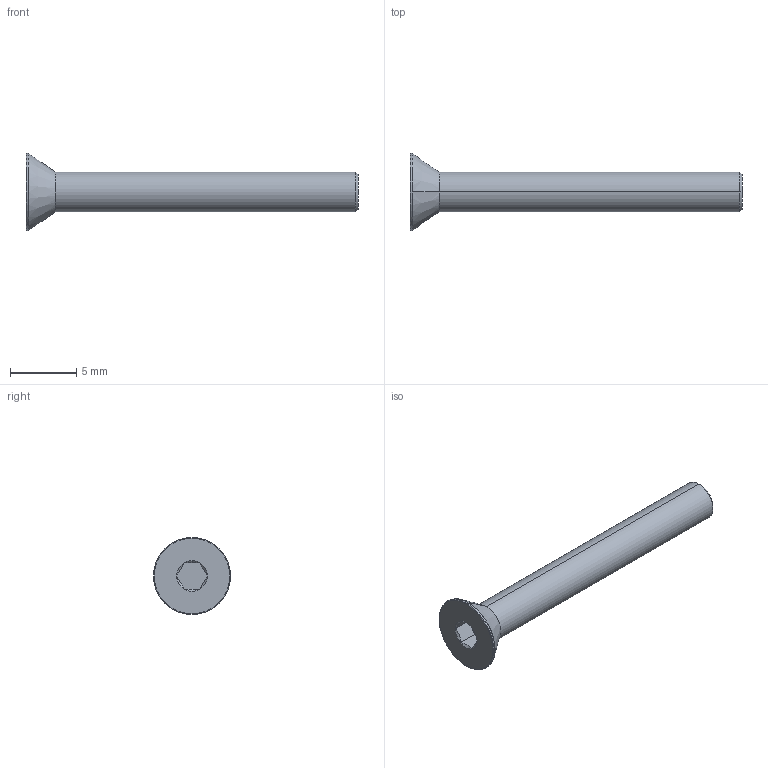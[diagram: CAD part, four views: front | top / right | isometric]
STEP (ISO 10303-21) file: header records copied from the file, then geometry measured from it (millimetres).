
FILE_DESCRIPTION (( 'STEP AP203' ), '1' );
FILE_NAME ('LGDB-TDE-M3x25.STEP', '2026-08-10T11:47:20', ( '' ), ( '' ), 'SwSTEP 2.0', 'SolidWorks 2020', '' );
FILE_SCHEMA (( 'CONFIG_CONTROL_DESIGN' ));
Length unit declared in the file: millimetre
Products named in the file (1): LGDB-TDE-M3x25
Bounding box: 25 x 5.8 x 5.8 mm (x, y, z)
Volume: 192.5 mm3; surface area: 294.2 mm2
Topology: 1 solids, 1 shells, 28 faces, 53 edges, 28 vertices
Faces by surface type: cone 11, plane 9, torus 4, cylinder 4
Entity records: 780 total; most frequent: CARTESIAN_POINT 141, DIRECTION 129, ORIENTED_EDGE 106, AXIS2_PLACEMENT_3D 54, EDGE_CURVE 53, EDGE_LOOP 29, VERTEX_POINT 28, ADVANCED_FACE 28
